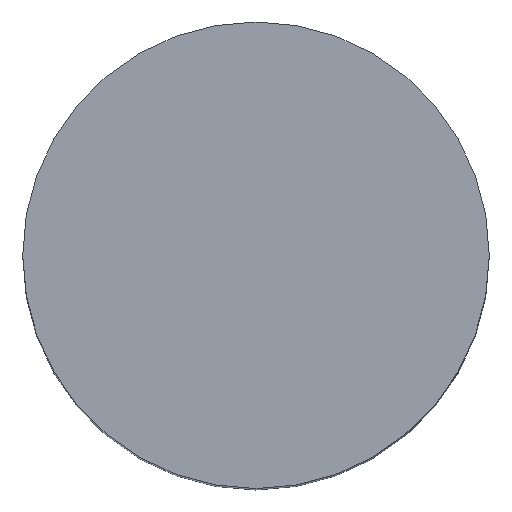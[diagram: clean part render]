
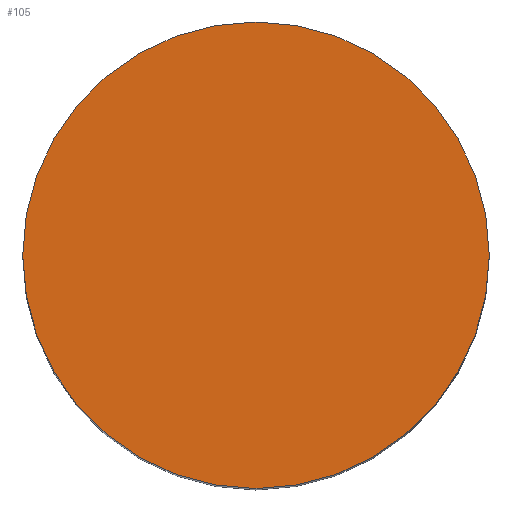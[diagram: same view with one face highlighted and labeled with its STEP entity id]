
A CAD part, top view. The second image highlights one B-rep face of the part: STEP entity #105.
In plain terms, the highlighted planar face has unit normal (0, 0, 1).
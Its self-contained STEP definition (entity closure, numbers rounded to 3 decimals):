
#21 = EDGE_CURVE('',#22,#22,#24,.T.);
#22 = VERTEX_POINT('',#23);
#23 = CARTESIAN_POINT('',(2.5,14.5,17.8));
#24 = SURFACE_CURVE('',#25,(#30,#42),.PCURVE_S1.);
#25 = CIRCLE('',#26,1.9);
#26 = AXIS2_PLACEMENT_3D('',#27,#28,#29);
#27 = CARTESIAN_POINT('',(0.6,14.5,17.8));
#28 = DIRECTION('',(0.,0.,1.));
#29 = DIRECTION('',(1.,0.,-0.));
#30 = PCURVE('',#31,#36);
#31 = CYLINDRICAL_SURFACE('',#32,1.9);
#32 = AXIS2_PLACEMENT_3D('',#33,#34,#35);
#33 = CARTESIAN_POINT('',(0.6,14.5,11.));
#34 = DIRECTION('',(0.,0.,1.));
#35 = DIRECTION('',(1.,0.,-0.));
#36 = DEFINITIONAL_REPRESENTATION('',(#37),#41);
#37 = LINE('',#38,#39);
#38 = CARTESIAN_POINT('',(0.,6.8));
#39 = VECTOR('',#40,1.);
#40 = DIRECTION('',(1.,0.));
#41 = ( GEOMETRIC_REPRESENTATION_CONTEXT(2) 
PARAMETRIC_REPRESENTATION_CONTEXT() REPRESENTATION_CONTEXT('2D SPACE',''
  ) );
#42 = PCURVE('',#43,#48);
#43 = PLANE('',#44);
#44 = AXIS2_PLACEMENT_3D('',#45,#46,#47);
#45 = CARTESIAN_POINT('',(0.6,14.5,17.8));
#46 = DIRECTION('',(0.,0.,1.));
#47 = DIRECTION('',(1.,0.,-0.));
#48 = DEFINITIONAL_REPRESENTATION('',(#49),#53);
#49 = CIRCLE('',#50,1.9);
#50 = AXIS2_PLACEMENT_2D('',#51,#52);
#51 = CARTESIAN_POINT('',(0.,0.));
#52 = DIRECTION('',(1.,0.));
#53 = ( GEOMETRIC_REPRESENTATION_CONTEXT(2) 
PARAMETRIC_REPRESENTATION_CONTEXT() REPRESENTATION_CONTEXT('2D SPACE',''
  ) );
#105 = ADVANCED_FACE('',(#106),#43,.T.);
#106 = FACE_BOUND('',#107,.T.);
#107 = EDGE_LOOP('',(#108));
#108 = ORIENTED_EDGE('',*,*,#21,.T.);
